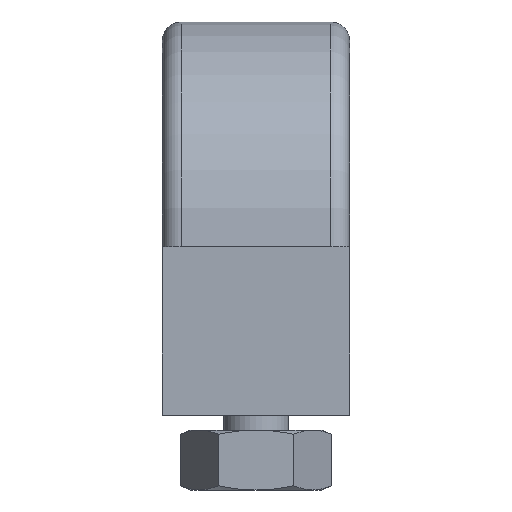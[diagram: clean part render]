
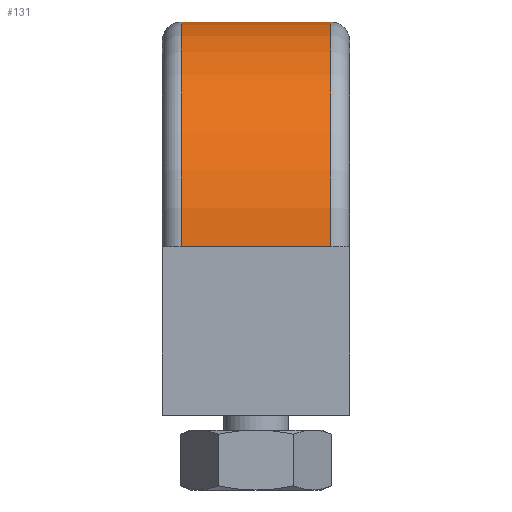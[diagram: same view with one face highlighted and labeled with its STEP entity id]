
A CAD part, front view. The second image highlights one B-rep face of the part: STEP entity #131.
In plain terms, the highlighted cylindrical face has radius 12.004 mm (diameter 24.008 mm), a partial arc.
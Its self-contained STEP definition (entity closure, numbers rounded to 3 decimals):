
#32 = VERTEX_POINT('',#33);
#33 = CARTESIAN_POINT('',(9.,-3.002,0.));
#39 = EDGE_CURVE('',#40,#32,#42,.T.);
#40 = VERTEX_POINT('',#41);
#41 = CARTESIAN_POINT('',(1.,-3.002,0.));
#42 = LINE('',#43,#44);
#43 = CARTESIAN_POINT('',(0.,-3.002,0.));
#44 = VECTOR('',#45,1.);
#45 = DIRECTION('',(1.,0.,0.));
#131 = ADVANCED_FACE('',(#132),#159,.T.);
#132 = FACE_BOUND('',#133,.T.);
#133 = EDGE_LOOP('',(#134,#143,#144,#153));
#134 = ORIENTED_EDGE('',*,*,#135,.F.);
#135 = EDGE_CURVE('',#40,#136,#138,.T.);
#136 = VERTEX_POINT('',#137);
#137 = CARTESIAN_POINT('',(1.,9.003,12.004));
#138 = CIRCLE('',#139,12.004);
#139 = AXIS2_PLACEMENT_3D('',#140,#141,#142);
#140 = CARTESIAN_POINT('',(1.,9.002,0.));
#141 = DIRECTION('',(-1.,0.,0.));
#142 = DIRECTION('',(0.,-1.,0.));
#143 = ORIENTED_EDGE('',*,*,#39,.T.);
#144 = ORIENTED_EDGE('',*,*,#145,.T.);
#145 = EDGE_CURVE('',#32,#146,#148,.T.);
#146 = VERTEX_POINT('',#147);
#147 = CARTESIAN_POINT('',(9.,9.003,12.004));
#148 = CIRCLE('',#149,12.004);
#149 = AXIS2_PLACEMENT_3D('',#150,#151,#152);
#150 = CARTESIAN_POINT('',(9.,9.002,0.));
#151 = DIRECTION('',(-1.,0.,0.));
#152 = DIRECTION('',(0.,-1.,0.));
#153 = ORIENTED_EDGE('',*,*,#154,.F.);
#154 = EDGE_CURVE('',#136,#146,#155,.T.);
#155 = LINE('',#156,#157);
#156 = CARTESIAN_POINT('',(0.,9.003,12.004));
#157 = VECTOR('',#158,1.);
#158 = DIRECTION('',(1.,0.,0.));
#159 = CYLINDRICAL_SURFACE('',#160,12.004);
#160 = AXIS2_PLACEMENT_3D('',#161,#162,#163);
#161 = CARTESIAN_POINT('',(0.,9.002,0.));
#162 = DIRECTION('',(-1.,0.,0.));
#163 = DIRECTION('',(0.,1.,0.));
